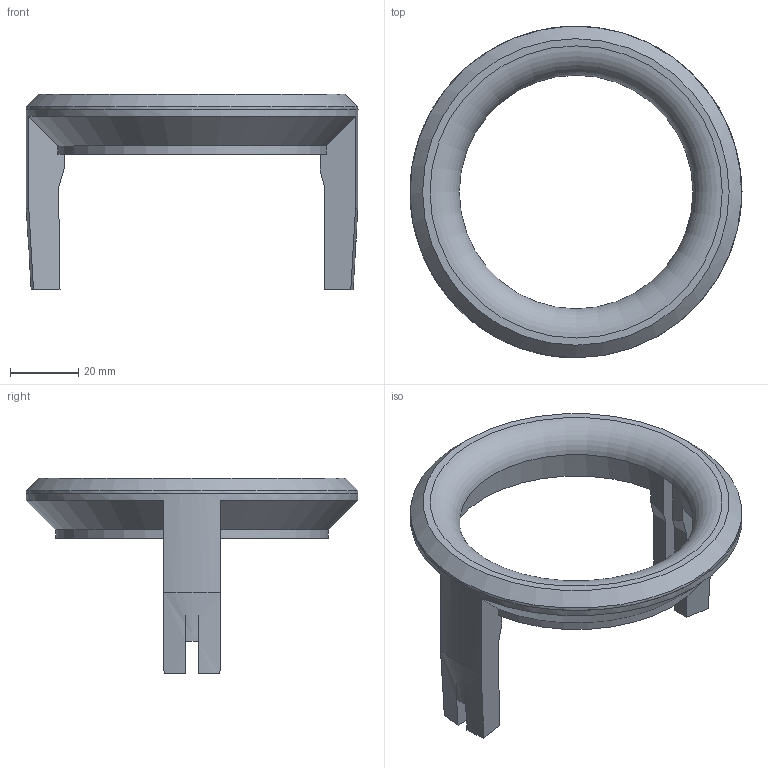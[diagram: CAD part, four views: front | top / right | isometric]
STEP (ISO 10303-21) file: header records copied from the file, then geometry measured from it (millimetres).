
FILE_DESCRIPTION(/* description */ (''),/* implementation_level */ '2;1');
FILE_NAME(/* name */ 'F:/F-Shared-Ryzen7 - PROD/F-OWL-PLANES/BAE Hawk T1 70mm EDF/OWLplane OWL BAE Hawk T1 70mm EDF v1.0/OWL BAE Hawk T1 70mm - SUPPORT/EDF-BRACKET-70mm/STEP/EDF-70 PowerFun Motor.step',/* time_stamp */ '2022-07-11T17:45:21+07:00',/* author */ (''),/* organization */ (''),/* preprocessor_version */ 'ST-DEVELOPER v19',/* originating_system */ 'Autodesk Translation Framework v11.7.0.108',/* authorisation */ '');
FILE_SCHEMA (('AUTOMOTIVE_DESIGN { 1 0 10303 214 3 1 1 }'));
Length unit declared in the file: millimetre
Products named in the file (1): EDF-70 PowerFun Motor
Bounding box: 97.56 x 97.48 x 57.56 mm (x, y, z)
Volume: 44698.6 mm3; surface area: 19713.3 mm2
Topology: 1 solids, 1 shells, 40 faces, 112 edges, 74 vertices
Faces by surface type: plane 26, cylinder 8, cone 5, torus 1
Full cylindrical faces by diameter (mm): 97.48 x2
Entity records: 1330 total; most frequent: CARTESIAN_POINT 235, DIRECTION 227, ORIENTED_EDGE 224, EDGE_CURVE 112, AXIS2_PLACEMENT_3D 78, VERTEX_POINT 74, LINE 71, VECTOR 71
